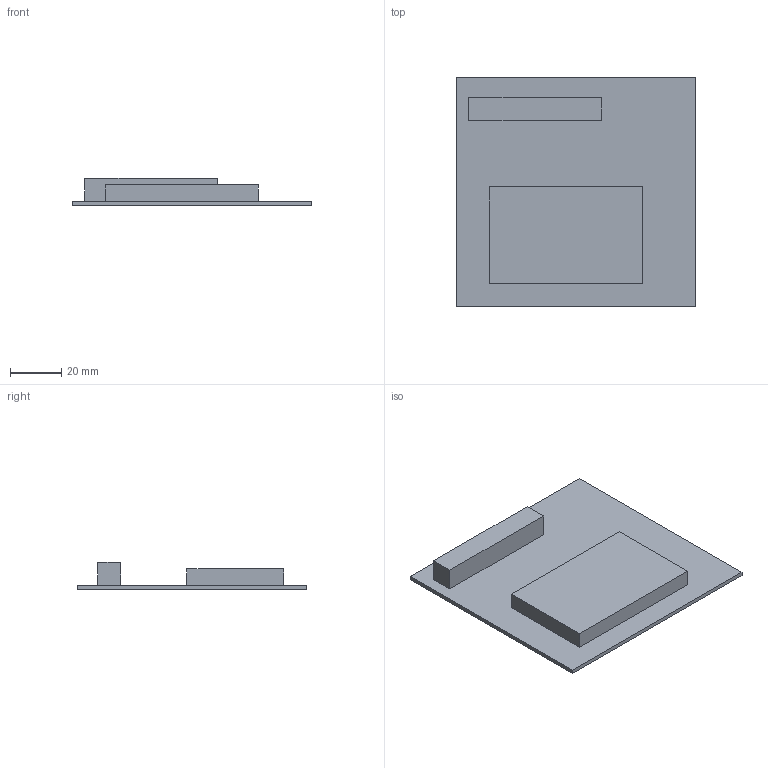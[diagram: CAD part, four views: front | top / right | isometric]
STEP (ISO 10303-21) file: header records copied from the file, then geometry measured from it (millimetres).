
FILE_DESCRIPTION(('Open CASCADE Model'),'2;1');
FILE_NAME('uhf_board','2026-08-12T02:42:45',('Author'),('Open CASCADE'), 'Open CASCADE STEP processor 7.9','build123d','Unknown');
FILE_SCHEMA(('AUTOMOTIVE_DESIGN { 1 0 10303 214 1 1 1 1 }'));
Length unit declared in the file: millimetre
Products named in the file (4): uhf_board; COMPOUND
Assembly tree (3 placements, depth 2):
  uhf_board
    COMPOUND
    COMPOUND
    COMPOUND
Bounding box: 94 x 90 x 10.6 mm (x, y, z)
Volume: 32568 mm3; surface area: 25376.8 mm2
Topology: 3 solids, 3 shells, 18 faces, 36 edges, 24 vertices
Faces by surface type: plane 18
Entity records: 988 total; most frequent: CARTESIAN_POINT 154, DIRECTION 152, LINE 108, VECTOR 108, ORIENTED_EDGE 72, PCURVE 72, DEFINITIONAL_REPRESENTATION 72, EDGE_CURVE 36
